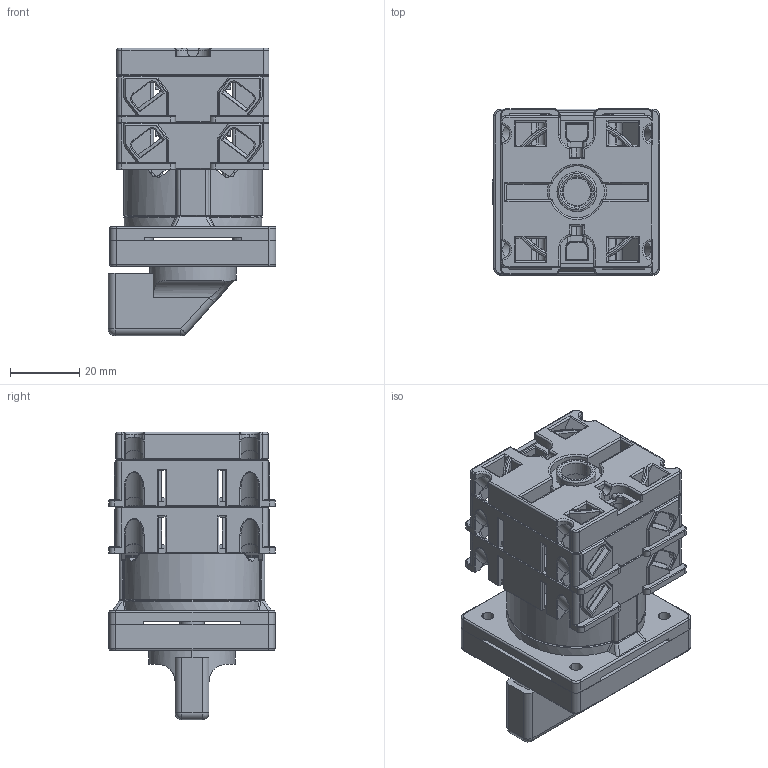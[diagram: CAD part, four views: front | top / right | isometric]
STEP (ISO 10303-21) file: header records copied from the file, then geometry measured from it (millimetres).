
FILE_DESCRIPTION (( 'STEP AP203' ), '1' );
FILE_NAME ('OptiSwitch 4G10- -U ( 2 ïàêåòà).STEP', '2015-10-23T05:52:18', ( '' ), ( '' ), 'SwSTEP 2.0', 'SolidWorks 2012', '' );
FILE_SCHEMA (( 'CONFIG_CONTROL_DESIGN' ));
Products named in the file (7): OptiSwitch 4G10- -U ( 2 櫡耪蠉); Ðóêîÿòêà 1; Ïàíåëü ïåðåäíÿÿ 1_00; 署赅 囵疱蜩痤忸黜铋 赅戾瘥_ 1; Êàìåðà àððåòèðîâî÷íàÿ 1; Êàìåðà êîíòàêòíàÿ 1_00; 署赅 觐眚嚓蝽铋 赅戾瘥_ 1
Assembly tree (7 placements, depth 2):
  OptiSwitch 4G10- -U ( 2 櫡耪蠉)
    署赅 觐眚嚓蝽铋 赅戾瘥_ 1
    Êàìåðà êîíòàêòíàÿ 1_00  x2
    Êàìåðà àððåòèðîâî÷íàÿ 1
    署赅 囵疱蜩痤忸黜铋 赅戾瘥_ 1
    Ïàíåëü ïåðåäíÿÿ 1_00
    Ðóêîÿòêà 1
Bounding box: 48.5 x 48 x 83.1 mm (x, y, z)
Volume: 61826.6 mm3; surface area: 58921.6 mm2
Topology: 7 solids, 7 shells, 3338 faces, 8975 edges, 5662 vertices
Faces by surface type: plane 1934, cylinder 1027, torus 146, cone 120, sphere 56, bspline 55
Entity records: 78520 total; most frequent: CARTESIAN_POINT 17260, ORIENTED_EDGE 12982, DIRECTION 12404, EDGE_CURVE 6491, VECTOR 4328, LINE 4328, VERTEX_POINT 4094, AXIS2_PLACEMENT_3D 4038
